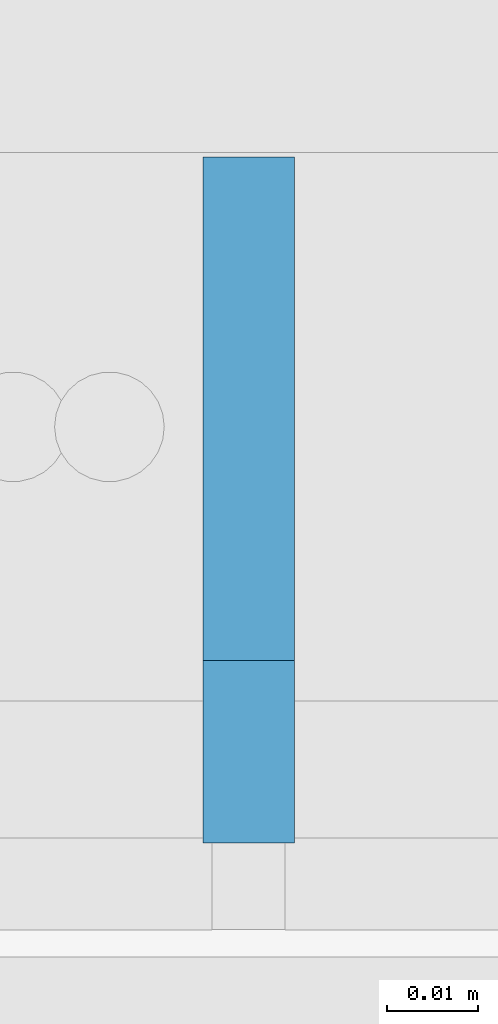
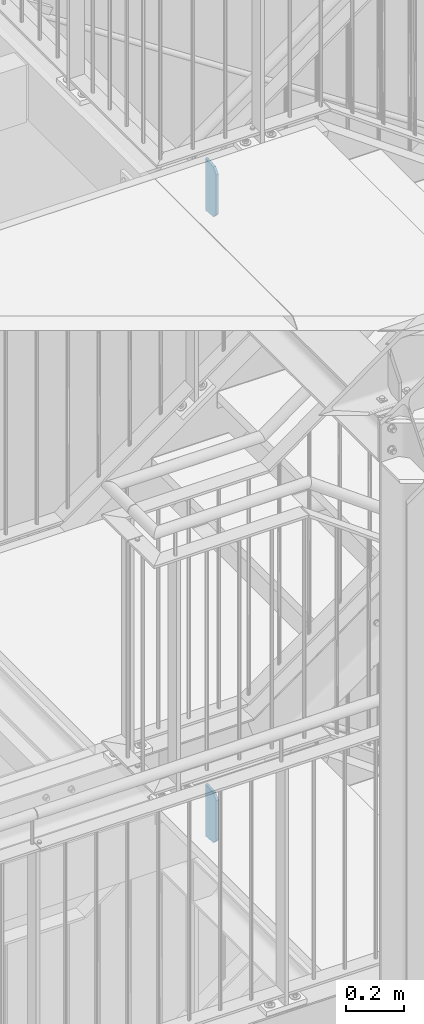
# One storey, part 163 of 825: 2 plates, 4 openings.
"""IFC2X3 building model written with IfcOpenShell, lengths in millimetres."""

from ifc_helpers import new_model, entity, si_unit, converted_unit, frame, origin, origin_with_axes, place, context, project, spatial, polyline, outline, extrude, material, layer, layer_set, element, save


model = new_model("IFC2X3")

# Units and contexts
model_context = context("Model", 3, precision=1e-09, world=origin_with_axes())
ifc_project = project(units=[si_unit("LENGTHUNIT", "METRE", prefix="MILLI"), si_unit("AREAUNIT", "SQUARE_METRE"), si_unit("VOLUMEUNIT", "CUBIC_METRE"), converted_unit("PLANEANGLEUNIT", "DEGREE", entity("IfcPlaneAngleMeasure", 0.01745329), si_unit("PLANEANGLEUNIT", "RADIAN"), dimensions=[0, 0, 0, 0, 0, 0, 0])], contexts=[model_context])

# Site, building, storey
site_placement = place(None, origin_with_axes())
site = spatial("IfcSite", under=ifc_project, at=site_placement, Name="Cnopf'sche Kinderklinik", CompositionType="ELEMENT")
building_placement = place(site_placement, origin_with_axes())
building = spatial("IfcBuilding", under=site, at=building_placement, Name="Struktur 1", CompositionType="ELEMENT")
storey_placement = place(building_placement, origin_with_axes())
storey = spatial("IfcBuildingStorey", under=building, at=storey_placement, Name="Default Storey", CompositionType="ELEMENT", Elevation=0.0)

# Plate, openings
ifc_material = material(Name="S235JR")
ifc_layer = layer(ifc_material, 10.0)
ifc_layer_set = layer_set([ifc_layer], Name="S235JR")
plate_1_placement = place(None, frame((4851.713402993, 5821.236971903, 15202.855265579), z_axis=(1.0, 0.0, 0.0), x_axis=(0.0, -0.996815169, -0.079746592)))
plate_1 = element("IfcPlate", 1, at=plate_1_placement, inside=storey, material=ifc_layer_set, Name="Stiffener#1", ObjectType="Stiffener#1", context=model_context, shape_type="SweptSolid", body=[
    extrude(outline(polyline([(0.0, 0.0), (75.239625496, 0.0), (91.644322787, 205.05517107), (17.361672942, 217.017159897), (0.0, 0.0)])), origin_with_axes(), (0.0, 0.0, 1.0), 10.0),
])
opening_1_placement = place(plate_1_placement, frame((0.0, 0.0, -0.01), z_axis=(0.0, 0.0, 1.0), x_axis=(1.0, 0.0, 0.0)))
element("IfcOpeningElement", 2, at=opening_1_placement, cuts=plate_1, ObjectType="Opening", context=model_context, shape_type="SweptSolid", body=[
    extrude(outline(polyline([(91.644322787, 205.05517107), (71.898703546, 208.23487558), (90.049390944, 185.118867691), (91.644322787, 205.05517107)])), origin(), (0.0, 0.0, 1.0), 10.02),
])
opening_2_placement = place(plate_1_placement, frame((0.0, 0.0, -0.01), z_axis=(0.0, 0.0, 1.0), x_axis=(1.0, 0.0, 0.0)))
element("IfcOpeningElement", 3, at=opening_2_placement, cuts=plate_1, ObjectType="Opening", context=model_context, shape_type="SweptSolid", body=[
    extrude(outline(polyline([(75.239625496, 0.0), (76.83455734, 19.936303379), (55.239625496, 0.0), (75.239625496, 0.0)])), origin(), (0.0, 0.0, 1.0), 10.02),
])

plate_2_placement = place(None, frame((4851.713402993, 5821.236971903, 17822.855265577), z_axis=(1.0, 0.0, 0.0), x_axis=(0.0, -0.996815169, -0.079746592)))
plate_2 = element("IfcPlate", 4, at=plate_2_placement, inside=storey, material=ifc_layer_set, Name="Stiffener#1", ObjectType="Stiffener#1", context=model_context, shape_type="SweptSolid", body=[
    extrude(outline(polyline([(0.0, 0.0), (75.239625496, 0.0), (91.644322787, 205.05517107), (17.361672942, 217.017159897), (0.0, 0.0)])), origin_with_axes(), (0.0, 0.0, 1.0), 10.0),
])
opening_3_placement = place(plate_2_placement, frame((0.0, 0.0, -0.01), z_axis=(0.0, 0.0, 1.0), x_axis=(1.0, 0.0, 0.0)))
element("IfcOpeningElement", 5, at=opening_3_placement, cuts=plate_2, ObjectType="Opening", context=model_context, shape_type="SweptSolid", body=[
    extrude(outline(polyline([(91.644322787, 205.05517107), (71.898703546, 208.23487558), (90.049390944, 185.118867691), (91.644322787, 205.05517107)])), origin(), (0.0, 0.0, 1.0), 10.02),
])
opening_4_placement = place(plate_2_placement, frame((0.0, 0.0, -0.01), z_axis=(0.0, 0.0, 1.0), x_axis=(1.0, 0.0, 0.0)))
element("IfcOpeningElement", 6, at=opening_4_placement, cuts=plate_2, ObjectType="Opening", context=model_context, shape_type="SweptSolid", body=[
    extrude(outline(polyline([(75.239625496, 0.0), (76.83455734, 19.936303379), (55.239625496, 0.0), (75.239625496, 0.0)])), origin(), (0.0, 0.0, 1.0), 10.02),
])

save(model, "model.ifc")
